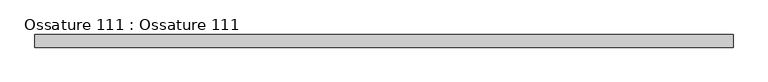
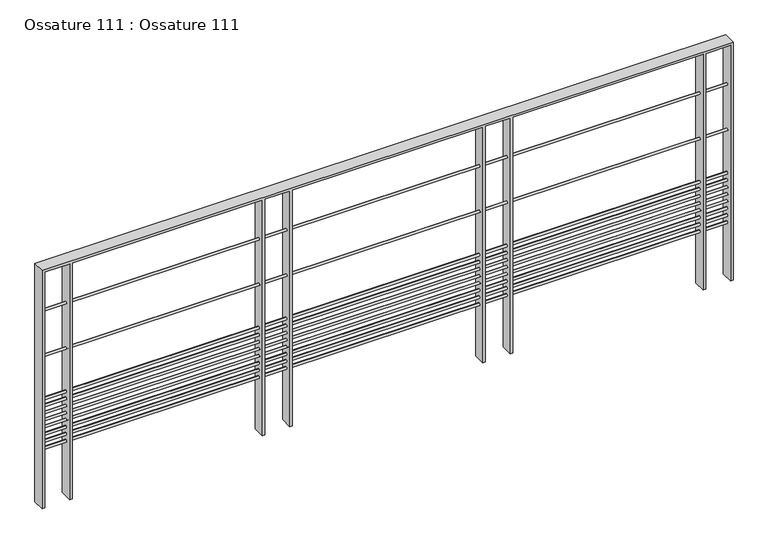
"""IFC4 building model written with IfcOpenShell, lengths in millimetres: beam geometry, Ossature 111 : Ossature 111."""

import ifcopenshell
import ifcopenshell.guid

model = None  # the IFC model being written
_history = None  # IfcOwnerHistory: only IFC2X3 demands one
_inside = {}  # id of a spatial element -> (the spatial element, [elements in it])
_under = {}  # id of a project, library or spatial element -> (it, [spatial elements below it])
_declared = {}  # id of a project -> (the project, [libraries it declares])
_typed = {}  # id of a type object -> (the type object, [elements of that type])
_made_of = {}  # id of a material, layer set ... -> (it, [elements and type objects made of it])


def new_model(schema):
    """Start an empty IFC model of exactly this schema.

    Asked for "IFC4X3", IfcOpenShell would pick the latest addendum, in which some entities
    have other attributes; the version numbers below select the first issue.
    IFC2X3 requires an IfcOwnerHistory on every rooted entity: one is made here for all.
    """
    global model, _history
    if schema == "IFC4X3":
        model = ifcopenshell.file(schema_version=(4, 3, 0, 0))
    else:
        model = ifcopenshell.file(schema=schema)
    _inside.clear()
    _under.clear()
    _declared.clear()
    _typed.clear()
    _made_of.clear()
    _history = None
    if model.schema == "IFC2X3":
        org = make("IfcOrganization", Name="unknown")
        user = make(
            "IfcPersonAndOrganization",
            ThePerson=make("IfcPerson", FamilyName="unknown"),
            TheOrganization=org,
        )
        app = make(
            "IfcApplication",
            ApplicationDeveloper=org,
            Version="unknown",
            ApplicationFullName="unknown",
            ApplicationIdentifier="unknown",
        )
        _history = make(
            "IfcOwnerHistory",
            OwningUser=user,
            OwningApplication=app,
            ChangeAction="ADDED",
            CreationDate=0,
        )
    return model


def make(cls, **values):
    """One entity of the class cls with the attributes given. An attribute that is None is left unset."""
    return model.create_entity(
        cls, **{name: value for name, value in values.items() if value is not None}
    )


def rooted(cls, **values):
    """An entity with a GlobalId (a new one), such as an element, a storey or a relation."""
    return make(cls, GlobalId=ifcopenshell.guid.new(), OwnerHistory=_history, **values)


def si_unit(unit_type, name, prefix=None):
    """IfcSIUnit, for example si_unit("LENGTHUNIT", "METRE", prefix="MILLI")."""
    return make("IfcSIUnit", UnitType=unit_type, Prefix=prefix, Name=name)


def assignment(units):
    """IfcUnitAssignment: the units of a project."""
    return None if units is None else make("IfcUnitAssignment", Units=units)


def point(xyz):
    """IfcCartesianPoint."""
    return None if xyz is None else make("IfcCartesianPoint", Coordinates=xyz)


def direction(xyz):
    """IfcDirection."""
    return None if xyz is None else make("IfcDirection", DirectionRatios=xyz)


def frame(location, z_axis=None, x_axis=None):
    """IfcAxis2Placement3D, a coordinate frame: its origin and axes. An axis left out is left unset."""
    return make(
        "IfcAxis2Placement3D",
        Location=point(location),
        Axis=direction(z_axis),
        RefDirection=direction(x_axis),
    )


def frame_2d(location, x_axis=None):
    """IfcAxis2Placement2D, a coordinate frame in the plane: its origin and x axis."""
    return make(
        "IfcAxis2Placement2D", Location=point(location), RefDirection=direction(x_axis)
    )


def origin():
    """The frame at (0, 0, 0) with its axes left unset."""
    return frame((0.0, 0.0, 0.0))


def place(relative_to, where):
    """IfcLocalPlacement: puts the frame where relative to a parent placement (None: the world)."""
    return make(
        "IfcLocalPlacement", PlacementRelTo=relative_to, RelativePlacement=where
    )


def context(
    kind, dimensions, precision=None, world=None, true_north=None, identifier=None
):
    """IfcGeometricRepresentationContext, for example the 3D "Model" context."""
    return make(
        "IfcGeometricRepresentationContext",
        ContextIdentifier=identifier,
        ContextType=kind,
        CoordinateSpaceDimension=dimensions,
        Precision=precision,
        WorldCoordinateSystem=world,
        TrueNorth=true_north,
    )


def project(units=None, contexts=None):
    """IfcProject with its units and contexts."""
    return rooted(
        "IfcProject",
        Name="project",
        RepresentationContexts=contexts,
        UnitsInContext=assignment(units),
    )


def spatial(cls, under=None, at=None, **own):
    """A site, building, storey or space (cls), placed at a placement, below another one or the project."""
    s = rooted(cls, ObjectPlacement=at, **own)
    if under is not None:
        _under.setdefault(under.id(), (under, []))[1].append(s)
    return s


def polyline(points):
    """IfcPolyline through the points."""
    return make("IfcPolyline", Points=[point(p) for p in points])


def circle_curve(where, radius):
    """IfcCircle in the frame where."""
    return make("IfcCircle", Position=where, Radius=radius)


def trimmed(basis, trim1, trim2, sense, master):
    """IfcTrimmedCurve: the piece of a basis curve between two trims."""
    return make(
        "IfcTrimmedCurve",
        BasisCurve=basis,
        Trim1=trim1,
        Trim2=trim2,
        SenseAgreement=sense,
        MasterRepresentation=master,
    )


def segment(curve, same_sense, transition):
    """IfcCompositeCurveSegment."""
    return make(
        "IfcCompositeCurveSegment",
        Transition=transition,
        SameSense=same_sense,
        ParentCurve=curve,
    )


def composite_curve(segments, self_intersect=None):
    """IfcCompositeCurve: segments joined end to end."""
    return make("IfcCompositeCurve", Segments=segments, SelfIntersect=self_intersect)


def outline(outer, holes=None, kind="AREA"):
    """IfcArbitraryClosedProfileDef: a profile drawn as a closed curve; with holes, ...WithVoids."""
    if holes is None:
        return make("IfcArbitraryClosedProfileDef", ProfileType=kind, OuterCurve=outer)
    return make(
        "IfcArbitraryProfileDefWithVoids",
        ProfileType=kind,
        OuterCurve=outer,
        InnerCurves=holes,
    )


def extrude(swept, where, along, depth):
    """IfcExtrudedAreaSolid: the profile swept, set in the frame where, extruded along a direction by depth."""
    return make(
        "IfcExtrudedAreaSolid",
        SweptArea=swept,
        Position=where,
        ExtrudedDirection=direction(along),
        Depth=depth,
    )


def shape(context_of_items, identifier, shape_type, items):
    """IfcShapeRepresentation: the items that make up one representation, for example the "Body"."""
    return make(
        "IfcShapeRepresentation",
        ContextOfItems=context_of_items,
        RepresentationIdentifier=identifier,
        RepresentationType=shape_type,
        Items=items,
    )


def source(mapping_origin, context_of_items, identifier, shape_type, items):
    """IfcRepresentationMap: a shape defined once, which mapped items show again and again."""
    return make(
        "IfcRepresentationMap",
        MappingOrigin=mapping_origin,
        MappedRepresentation=shape(context_of_items, identifier, shape_type, items),
    )


def transform(
    local_origin,
    x_axis=None,
    y_axis=None,
    z_axis=None,
    scale=None,
    scale2=None,
    scale3=None,
    uniform=True,
):
    """IfcCartesianTransformationOperator3D, or its non-uniform kind. x_axis, y_axis, z_axis: its Axis1, 2, 3."""
    if uniform:
        return make(
            "IfcCartesianTransformationOperator3D",
            Axis1=direction(x_axis),
            Axis2=direction(y_axis),
            LocalOrigin=point(local_origin),
            Scale=scale,
            Axis3=direction(z_axis),
        )
    return make(
        "IfcCartesianTransformationOperator3DnonUniform",
        Axis1=direction(x_axis),
        Axis2=direction(y_axis),
        LocalOrigin=point(local_origin),
        Scale=scale,
        Axis3=direction(z_axis),
        Scale2=scale2,
        Scale3=scale3,
    )


def mapped(mapping_source, mapping_target):
    """IfcMappedItem: shows the shape of a source again, moved by a transform."""
    return make(
        "IfcMappedItem", MappingSource=mapping_source, MappingTarget=mapping_target
    )


def made_of(thing, what):
    """Note that an element or type object is made of a material, layer set ...; save() writes the relation."""
    if what is not None:
        _made_of.setdefault(what.id(), (what, []))[1].append(thing)
    return thing


def element(
    cls,
    number,
    at=None,
    inside=None,
    cuts=None,
    type_object=None,
    material=None,
    context=None,
    identifier="Body",
    shape_type=None,
    held_by="IfcProductDefinitionShape",
    body=None,
    shapes=None,
    **own,
):
    """One element of the class cls, such as IfcWall. Its Tag is "e" and its number.

    at: its placement. inside: the storey or other place that contains it. cuts: it is an
    opening in that element (IfcRelVoidsElement). A single representation is given by context,
    identifier, shape_type and body (its items); several are given by shapes. held_by: the class
    of the entity that holds the representations. save() writes the other relations.
    """
    e = rooted(cls, Tag="e%d" % number, ObjectPlacement=at, **own)
    if body is not None:
        shapes = [shape(context, identifier, shape_type, body)]
    if shapes is not None:
        e.Representation = make(held_by, Representations=shapes)
    if inside is not None:
        _inside.setdefault(inside.id(), (inside, []))[1].append(e)
    if cuts is not None:
        rooted(
            "IfcRelVoidsElement", RelatingBuildingElement=cuts, RelatedOpeningElement=e
        )
    if type_object is not None:
        _typed.setdefault(type_object.id(), (type_object, []))[1].append(e)
    return made_of(e, material)


def aggregate(whole, parts):
    """IfcRelAggregates: a whole, such as a stair, and the parts it consists of."""
    return rooted("IfcRelAggregates", RelatingObject=whole, RelatedObjects=parts)


def save(model, path):
    """Write the relations noted so far, then the file.

    IfcRelAggregates (storeys below a building ...), IfcRelContainedInSpatialStructure (elements
    in a storey), IfcRelDefinesByType, IfcRelAssociatesMaterial and IfcRelDeclares: one each for
    every whole, place, type object, material and project.
    """
    for whole, parts in _under.values():
        aggregate(whole, parts)
    for where, things in _inside.values():
        rooted(
            "IfcRelContainedInSpatialStructure",
            RelatedElements=things,
            RelatingStructure=where,
        )
    for kind, things in _typed.values():
        rooted("IfcRelDefinesByType", RelatedObjects=things, RelatingType=kind)
    for what, things in _made_of.values():
        rooted("IfcRelAssociatesMaterial", RelatedObjects=things, RelatingMaterial=what)
    for by, libraries in _declared.values():
        rooted("IfcRelDeclares", RelatingContext=by, RelatedDefinitions=libraries)
    model.write(path)


def ossature_111_ossature_111_d86c652b(model_context):
    return source(origin(), model_context, "Body", "SweptSolid", [
        extrude(outline(composite_curve([segment(trimmed(circle_curve(frame_2d((10426.1798097, 6811.7)), 5.0), [point((10426.1798097, 6816.7))], [point((10426.1798097, 6806.7))], False, "CARTESIAN"), True, "CONTINUOUS"), segment(trimmed(circle_curve(frame_2d((10426.1798097, 6811.7)), 5.0), [point((10426.1798097, 6806.7))], [point((10426.1798097, 6816.7))], False, "CARTESIAN"), True, "CONTINUOUS")], self_intersect=False)), frame((9196.2466393, 0.0, 0.0), z_axis=(1.0, 0.0, 0.0), x_axis=(0.0, 1.0, 0.0)), (0.0, 0.0, 1.0), 2760.0),
        extrude(outline(composite_curve([segment(trimmed(circle_curve(frame_2d((10426.1798097, 6618.3)), 5.0), [point((10426.1798097, 6623.3))], [point((10426.1798097, 6613.3))], False, "CARTESIAN"), True, "CONTINUOUS"), segment(trimmed(circle_curve(frame_2d((10426.1798097, 6618.3)), 5.0), [point((10426.1798097, 6613.3))], [point((10426.1798097, 6623.3))], False, "CARTESIAN"), True, "CONTINUOUS")], self_intersect=False)), frame((9196.2466393, 0.0, 0.0), z_axis=(1.0, 0.0, 0.0), x_axis=(0.0, 1.0, 0.0)), (0.0, 0.0, 1.0), 2760.0),
        extrude(outline(composite_curve([segment(trimmed(circle_curve(frame_2d((10426.1798097, 6435.0)), 5.0), [point((10426.1798097, 6440.0))], [point((10426.1798097, 6430.0))], False, "CARTESIAN"), True, "CONTINUOUS"), segment(trimmed(circle_curve(frame_2d((10426.1798097, 6435.0)), 5.0), [point((10426.1798097, 6430.0))], [point((10426.1798097, 6440.0))], False, "CARTESIAN"), True, "CONTINUOUS")], self_intersect=False)), frame((9196.2466393, 0.0, 0.0), z_axis=(1.0, 0.0, 0.0), x_axis=(0.0, 1.0, 0.0)), (0.0, 0.0, 1.0), 2760.0),
        extrude(outline(composite_curve([segment(trimmed(circle_curve(frame_2d((10426.1798097, 6405.0)), 5.0), [point((10426.1798097, 6410.0))], [point((10426.1798097, 6400.0))], False, "CARTESIAN"), True, "CONTINUOUS"), segment(trimmed(circle_curve(frame_2d((10426.1798097, 6405.0)), 5.0), [point((10426.1798097, 6400.0))], [point((10426.1798097, 6410.0))], False, "CARTESIAN"), True, "CONTINUOUS")], self_intersect=False)), frame((9196.2466393, 0.0, 0.0), z_axis=(1.0, 0.0, 0.0), x_axis=(0.0, 1.0, 0.0)), (0.0, 0.0, 1.0), 2760.0),
        extrude(outline(composite_curve([segment(trimmed(circle_curve(frame_2d((10426.1798097, 6375.0)), 5.0), [point((10426.1798097, 6380.0))], [point((10426.1798097, 6370.0))], False, "CARTESIAN"), True, "CONTINUOUS"), segment(trimmed(circle_curve(frame_2d((10426.1798097, 6375.0)), 5.0), [point((10426.1798097, 6370.0))], [point((10426.1798097, 6380.0))], False, "CARTESIAN"), True, "CONTINUOUS")], self_intersect=False)), frame((9196.2466393, 0.0, 0.0), z_axis=(1.0, 0.0, 0.0), x_axis=(0.0, 1.0, 0.0)), (0.0, 0.0, 1.0), 2760.0),
        extrude(outline(composite_curve([segment(trimmed(circle_curve(frame_2d((10426.1798097, 6345.0)), 5.0), [point((10426.1798097, 6350.0))], [point((10426.1798097, 6340.0))], False, "CARTESIAN"), True, "CONTINUOUS"), segment(trimmed(circle_curve(frame_2d((10426.1798097, 6345.0)), 5.0), [point((10426.1798097, 6340.0))], [point((10426.1798097, 6350.0))], False, "CARTESIAN"), True, "CONTINUOUS")], self_intersect=False)), frame((9196.2466393, 0.0, 0.0), z_axis=(1.0, 0.0, 0.0), x_axis=(0.0, 1.0, 0.0)), (0.0, 0.0, 1.0), 2760.0),
        extrude(outline(composite_curve([segment(trimmed(circle_curve(frame_2d((10426.1798097, 6315.0)), 5.0), [point((10426.1798097, 6320.0))], [point((10426.1798097, 6310.0))], False, "CARTESIAN"), True, "CONTINUOUS"), segment(trimmed(circle_curve(frame_2d((10426.1798097, 6315.0)), 5.0), [point((10426.1798097, 6310.0))], [point((10426.1798097, 6320.0))], False, "CARTESIAN"), True, "CONTINUOUS")], self_intersect=False)), frame((9196.2466393, 0.0, 0.0), z_axis=(1.0, 0.0, 0.0), x_axis=(0.0, 1.0, 0.0)), (0.0, 0.0, 1.0), 2760.0),
        extrude(outline(composite_curve([segment(trimmed(circle_curve(frame_2d((10426.1798097, 6285.0)), 5.0), [point((10426.1798097, 6290.0))], [point((10426.1798097, 6280.0))], False, "CARTESIAN"), True, "CONTINUOUS"), segment(trimmed(circle_curve(frame_2d((10426.1798097, 6285.0)), 5.0), [point((10426.1798097, 6280.0))], [point((10426.1798097, 6290.0))], False, "CARTESIAN"), True, "CONTINUOUS")], self_intersect=False)), frame((9196.2466393, 0.0, 0.0), z_axis=(1.0, 0.0, 0.0), x_axis=(0.0, 1.0, 0.0)), (0.0, 0.0, 1.0), 2760.0),
        extrude(outline(composite_curve([segment(trimmed(circle_curve(frame_2d((10426.1798097, 6255.0)), 5.0), [point((10426.1798097, 6260.0))], [point((10426.1798097, 6250.0))], False, "CARTESIAN"), True, "CONTINUOUS"), segment(trimmed(circle_curve(frame_2d((10426.1798097, 6255.0)), 5.0), [point((10426.1798097, 6250.0))], [point((10426.1798097, 6260.0))], False, "CARTESIAN"), True, "CONTINUOUS")], self_intersect=False)), frame((9196.2466393, 0.0, 0.0), z_axis=(1.0, 0.0, 0.0), x_axis=(0.0, 1.0, 0.0)), (0.0, 0.0, 1.0), 2760.0),
        extrude(outline(composite_curve([segment(trimmed(circle_curve(frame_2d((10426.1798097, 6225.0)), 5.0), [point((10426.1798097, 6230.0))], [point((10426.1798097, 6220.0))], False, "CARTESIAN"), True, "CONTINUOUS"), segment(trimmed(circle_curve(frame_2d((10426.1798097, 6225.0)), 5.0), [point((10426.1798097, 6220.0))], [point((10426.1798097, 6230.0))], False, "CARTESIAN"), True, "CONTINUOUS")], self_intersect=False)), frame((9196.2466393, 0.0, 0.0), z_axis=(1.0, 0.0, 0.0), x_axis=(0.0, 1.0, 0.0)), (0.0, 0.0, 1.0), 2760.0),
        extrude(outline(polyline([(6990.0, 11062.9133059), (5990.0, 11062.9133059), (5990.0, 11072.9133059), (6990.0, 11072.9133059), (6990.0, 11836.2466393), (5990.0, 11836.2466393), (5990.0, 11846.2466393), (6990.0, 11846.2466393), (6990.0, 11946.2466393), (5990.0, 11946.2466393), (5990.0, 11956.2466393), (7000.0, 11956.2466393), (7000.0, 9186.2466393), (5990.0, 9186.2466393), (5990.0, 9196.2466393), (6990.0, 9196.2466393), (6990.0, 9296.2466393), (5990.0, 9296.2466393), (5990.0, 9306.2466393), (6990.0, 9306.2466393), (6990.0, 10069.5799726), (5990.0, 10069.5799726), (5990.0, 10079.5799726), (6990.0, 10079.5799726), (6990.0, 10179.5799726), (5990.0, 10179.5799726), (5990.0, 10189.5799726), (6990.0, 10189.5799726), (6990.0, 10952.9133059), (5990.0, 10952.9133059), (5990.0, 10962.9133059), (6990.0, 10962.9133059), (6990.0, 11062.9133059)])), frame((0.0, 10401.1798097, 0.0), z_axis=(0.0, 1.0, 0.0), x_axis=(0.0, 0.0, 1.0)), (0.0, 0.0, 1.0), 50.0),
    ])


if __name__ == "__main__":
    model = new_model("IFC4")
    model_context = context("Model", 3, world=origin())
    ifc_project = project(units=[si_unit("LENGTHUNIT", "METRE", prefix="MILLI")], contexts=[model_context])
    site = spatial("IfcSite", under=ifc_project)
    building = spatial("IfcBuilding", under=site)
    placement = place(None, origin())
    ossature_111_ossature_111_shape = ossature_111_ossature_111_d86c652b(model_context)
    element("IfcBeam", 1, ObjectType="Ossature 111 : Ossature 111", at=placement, inside=building, context=model_context, shape_type="MappedRepresentation", body=[
        mapped(ossature_111_ossature_111_shape, transform((0.0, 0.0, 0.0), x_axis=(1.0, 0.0, 0.0), y_axis=(0.0, 1.0, 0.0), z_axis=(0.0, 0.0, 1.0))),
    ])
    save(model, "model.ifc")
